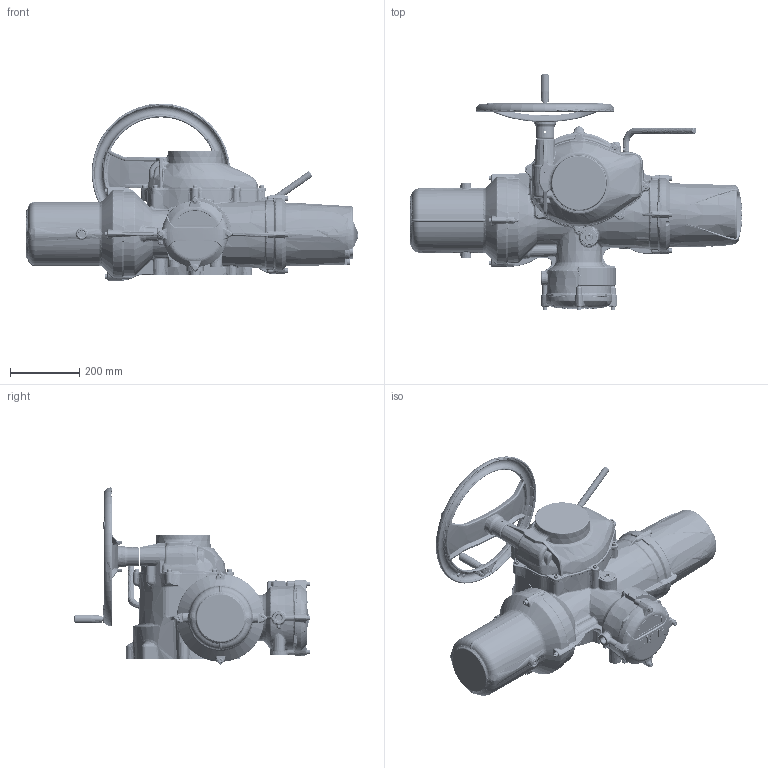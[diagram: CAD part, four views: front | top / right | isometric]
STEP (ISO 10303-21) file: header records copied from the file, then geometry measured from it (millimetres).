
FILE_DESCRIPTION( ( 'Unknown' ), '1' );
FILE_NAME( 'S:/Release/Datasheets for P.E/size45 models for website/II40_SHW_NO_BASE-1.stp', 'Unknown', ( 'Unknown' ), ( 'Unknown' ), 'PSStep 15.0.49', 'Unknown', ' ' );
FILE_SCHEMA( ( 'AUTOMOTIVE_DESIGN { 1 0 10303 214 1 1 1 1 }' ) );
Length unit declared in the file: millimetre
Products named in the file (9): II45-01-std
Bounding box: 958.3 x 680.05 x 511.07 mm (x, y, z)
Volume: 916461.3 mm3; surface area: 1439592.7 mm2
Topology: 45 solids, 47 shells, 6434 faces, 15964 edges, 9410 vertices
Faces by surface type: bspline 2552, plane 1496, cylinder 905, torus 643, cone 493, sphere 198, extrusion 108, revolution 21, offset 18
Full cylindrical faces by diameter (mm): 1.152 x1, 3 x10, 3.5 x1, 6 x5, 6.45 x4, 6.47 x4, 6.5 x1, 6.647 x8, 7 x4, 7.6 x4, 8 x21, 8.1 x1, 8.2 x1, 8.3 x2, 8.376 x1, 8.5 x4, 9.7 x1, 10 x1, 12 x2, 12.1 x1, 13 x12, 13.25 x7, 16 x1, 16.75 x1, 18 x2, 20 x2, 24.75 x1, 24.78 x1, 25 x2, 54 x1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
Entity records: 670997 total; most frequent: CARTESIAN_POINT 491088, ORIENTED_EDGE 30230, DIRECTION 21663, EDGE_CURVE 15115, VERTEX_POINT 9201, AXIS2_PLACEMENT_3D 9144, EDGE_LOOP 6931, FACE_OUTER_BOUND 6637
